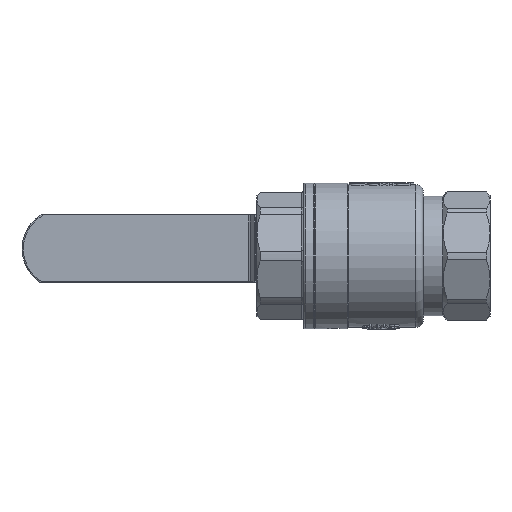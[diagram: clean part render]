
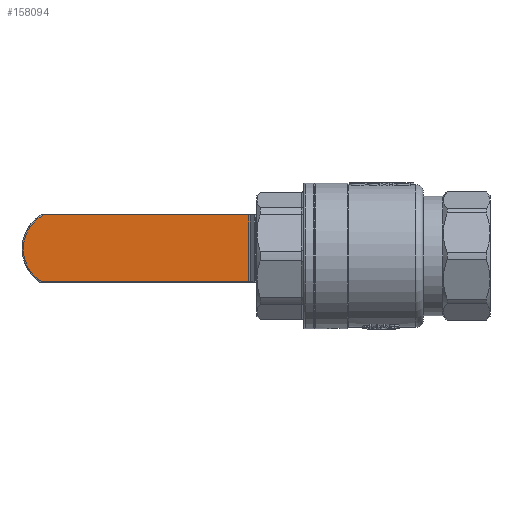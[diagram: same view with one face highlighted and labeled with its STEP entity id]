
A CAD part, front view. The second image highlights one B-rep face of the part: STEP entity #158094.
In plain terms, the highlighted planar face has unit normal (0, -1, 0).
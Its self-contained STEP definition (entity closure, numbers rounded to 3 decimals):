
#561 = VECTOR ( 'NONE', #26766, 1000. ) ;
#5337 = DIRECTION ( 'NONE',  ( 0., -1., 0. ) ) ;
#9974 = CIRCLE ( 'NONE', #77219, 15.5 ) ;
#14407 = VERTEX_POINT ( 'NONE', #72361 ) ;
#21115 = ORIENTED_EDGE ( 'NONE', *, *, #28773, .T. ) ;
#23006 = LINE ( 'NONE', #181341, #105977 ) ;
#26766 = DIRECTION ( 'NONE',  ( -1., 0., 0. ) ) ;
#28773 = EDGE_CURVE ( 'NONE', #40261, #102735, #23006, .T. ) ;
#37491 = EDGE_LOOP ( 'NONE', ( #21115, #92339, #97652, #114430 ) ) ;
#40226 = CARTESIAN_POINT ( 'NONE',  ( 49.971, 20.5, -13.65 ) ) ;
#40261 = VERTEX_POINT ( 'NONE', #40226 ) ;
#40459 = CARTESIAN_POINT ( 'NONE',  ( 132.344, 20.5, -13.65 ) ) ;
#63633 = VERTEX_POINT ( 'NONE', #191233 ) ;
#69451 = LINE ( 'NONE', #115048, #561 ) ;
#69897 = DIRECTION ( 'NONE',  ( 0., 0., -1. ) ) ;
#70496 = CARTESIAN_POINT ( 'NONE',  ( 49.971, 20.5, 12.65 ) ) ;
#71653 = VECTOR ( 'NONE', #69897, 1000. ) ;
#72361 = CARTESIAN_POINT ( 'NONE',  ( 49.971, 20.5, 13.15 ) ) ;
#77219 = AXIS2_PLACEMENT_3D ( 'NONE', #93439, #5337, #108291 ) ;
#83217 = CARTESIAN_POINT ( 'NONE',  ( 49.1, 20.5, 12.65 ) ) ;
#92339 = ORIENTED_EDGE ( 'NONE', *, *, #141119, .T. ) ;
#92820 = DIRECTION ( 'NONE',  ( 1., 0., 0. ) ) ;
#93439 = CARTESIAN_POINT ( 'NONE',  ( 125., 20.5, 0. ) ) ;
#97652 = ORIENTED_EDGE ( 'NONE', *, *, #162886, .T. ) ;
#98109 = DIRECTION ( 'NONE',  ( 0., 0., 1. ) ) ;
#102735 = VERTEX_POINT ( 'NONE', #40459 ) ;
#105977 = VECTOR ( 'NONE', #92820, 1000. ) ;
#108291 = DIRECTION ( 'NONE',  ( 0., 0., 1. ) ) ;
#114430 = ORIENTED_EDGE ( 'NONE', *, *, #124086, .T. ) ;
#115048 = CARTESIAN_POINT ( 'NONE',  ( 49.971, 20.5, 13.15 ) ) ;
#124086 = EDGE_CURVE ( 'NONE', #14407, #40261, #184982, .T. ) ;
#141119 = EDGE_CURVE ( 'NONE', #102735, #63633, #9974, .T. ) ;
#146082 = FACE_OUTER_BOUND ( 'NONE', #37491, .T. ) ;
#158094 = ADVANCED_FACE ( 'NONE', ( #146082 ), #171817, .F. ) ;
#162886 = EDGE_CURVE ( 'NONE', #63633, #14407, #69451, .T. ) ;
#163988 = AXIS2_PLACEMENT_3D ( 'NONE', #83217, #186595, #98109 ) ;
#171817 = PLANE ( 'NONE',  #163988 ) ;
#181341 = CARTESIAN_POINT ( 'NONE',  ( 49.1, 20.5, -13.65 ) ) ;
#184982 = LINE ( 'NONE', #70496, #71653 ) ;
#186595 = DIRECTION ( 'NONE',  ( 0., 1., 0. ) ) ;
#191233 = CARTESIAN_POINT ( 'NONE',  ( 133.205, 20.5, 13.15 ) ) ;
